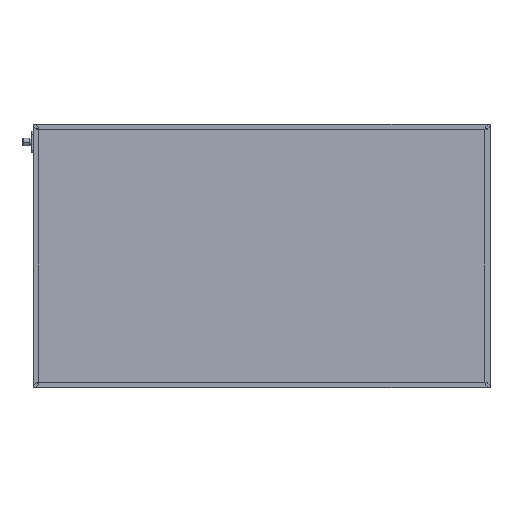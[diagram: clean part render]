
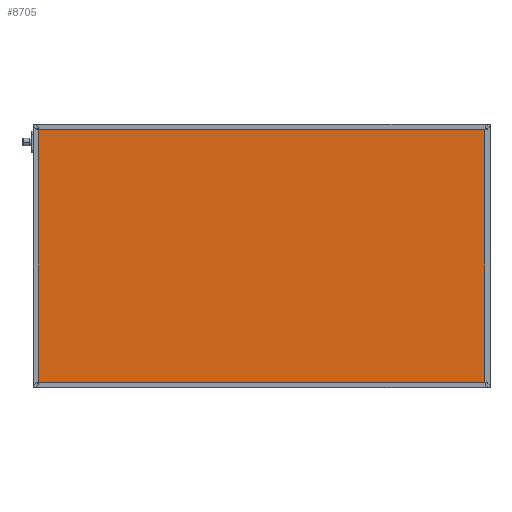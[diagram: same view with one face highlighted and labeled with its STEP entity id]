
A CAD part, top view. The second image highlights one B-rep face of the part: STEP entity #8705.
In plain terms, the highlighted planar face has unit normal (0, 0, 1).
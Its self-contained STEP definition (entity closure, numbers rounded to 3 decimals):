
#269 = DIRECTION ( 'NONE',  ( 1., 0., 0. ) ) ;
#1400 = CARTESIAN_POINT ( 'NONE',  ( 696., 396., 41.85 ) ) ;
#2270 = CARTESIAN_POINT ( 'NONE',  ( 4., 4., 41.85 ) ) ;
#2370 = CARTESIAN_POINT ( 'NONE',  ( 696., 4., 41.85 ) ) ;
#2982 = AXIS2_PLACEMENT_3D ( 'NONE', #10202, #3755, #6279 ) ;
#3133 = VERTEX_POINT ( 'NONE', #7457 ) ;
#3380 = CARTESIAN_POINT ( 'NONE',  ( 4., 0., 41.85 ) ) ;
#3755 = DIRECTION ( 'NONE',  ( 0., 0., -1. ) ) ;
#4045 = VERTEX_POINT ( 'NONE', #1400 ) ;
#4797 = PLANE ( 'NONE',  #2982 ) ;
#6079 = CARTESIAN_POINT ( 'NONE',  ( 696., 0., 41.85 ) ) ;
#6246 = LINE ( 'NONE', #3380, #6925 ) ;
#6279 = DIRECTION ( 'NONE',  ( -1., 0., 0. ) ) ;
#6369 = EDGE_CURVE ( 'NONE', #17096, #14588, #11950, .T. ) ;
#6400 = DIRECTION ( 'NONE',  ( -1., 0., 0. ) ) ;
#6717 = CARTESIAN_POINT ( 'NONE',  ( 0., 4., 41.85 ) ) ;
#6925 = VECTOR ( 'NONE', #14344, 1000. ) ;
#7357 = VECTOR ( 'NONE', #269, 1000. ) ;
#7457 = CARTESIAN_POINT ( 'NONE',  ( 4., 396., 41.85 ) ) ;
#7713 = LINE ( 'NONE', #15366, #11964 ) ;
#8705 = ADVANCED_FACE ( 'NONE', ( #15333 ), #4797, .F. ) ;
#9734 = VECTOR ( 'NONE', #10082, 1000. ) ;
#9832 = ORIENTED_EDGE ( 'NONE', *, *, #6369, .T. ) ;
#10082 = DIRECTION ( 'NONE',  ( 0., 1., 0. ) ) ;
#10202 = CARTESIAN_POINT ( 'NONE',  ( 0., 0., 41.85 ) ) ;
#10981 = EDGE_LOOP ( 'NONE', ( #17001, #15378, #14885, #9832 ) ) ;
#11950 = LINE ( 'NONE', #6717, #7357 ) ;
#11964 = VECTOR ( 'NONE', #6400, 1000. ) ;
#12701 = LINE ( 'NONE', #6079, #9734 ) ;
#14119 = EDGE_CURVE ( 'NONE', #3133, #17096, #6246, .T. ) ;
#14344 = DIRECTION ( 'NONE',  ( 0., -1., 0. ) ) ;
#14588 = VERTEX_POINT ( 'NONE', #2370 ) ;
#14885 = ORIENTED_EDGE ( 'NONE', *, *, #14119, .T. ) ;
#15333 = FACE_OUTER_BOUND ( 'NONE', #10981, .T. ) ;
#15359 = EDGE_CURVE ( 'NONE', #14588, #4045, #12701, .T. ) ;
#15366 = CARTESIAN_POINT ( 'NONE',  ( 0., 396., 41.85 ) ) ;
#15378 = ORIENTED_EDGE ( 'NONE', *, *, #15638, .T. ) ;
#15638 = EDGE_CURVE ( 'NONE', #4045, #3133, #7713, .T. ) ;
#17001 = ORIENTED_EDGE ( 'NONE', *, *, #15359, .T. ) ;
#17096 = VERTEX_POINT ( 'NONE', #2270 ) ;
